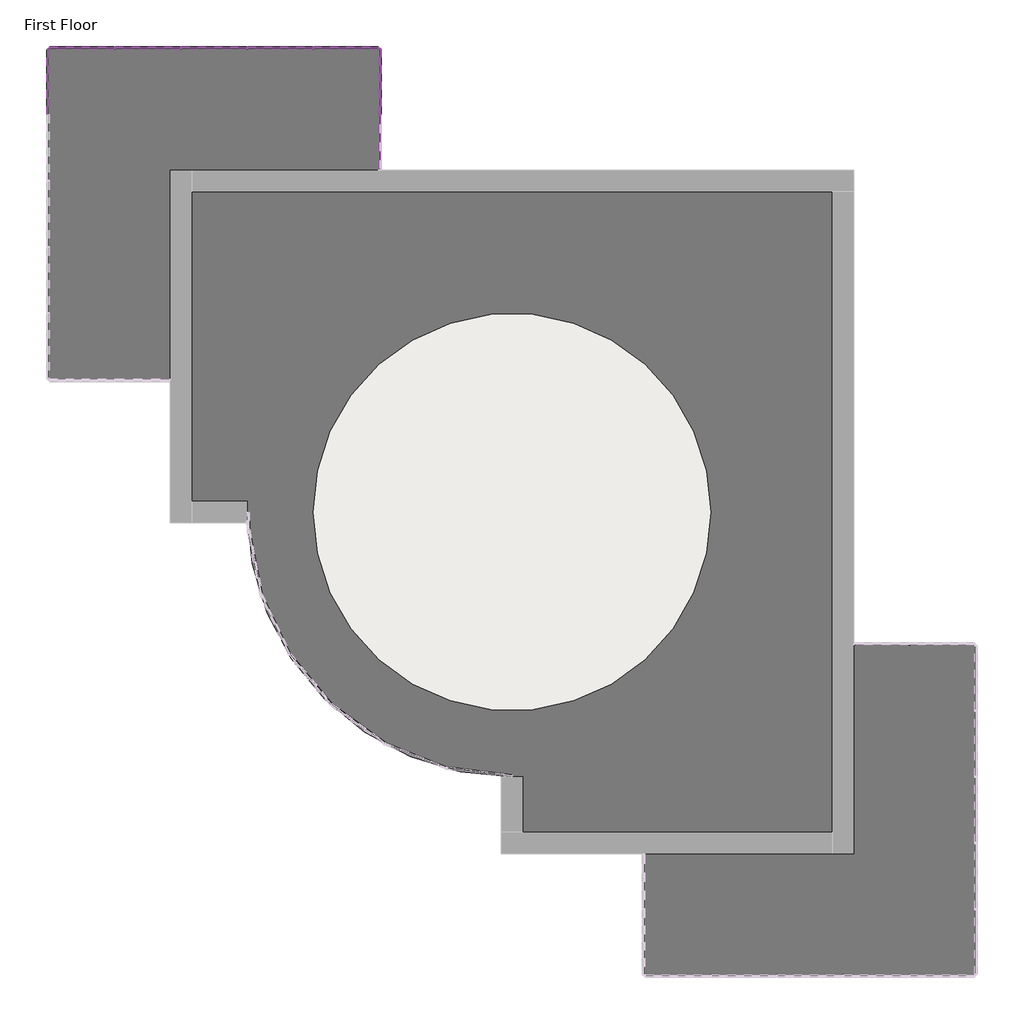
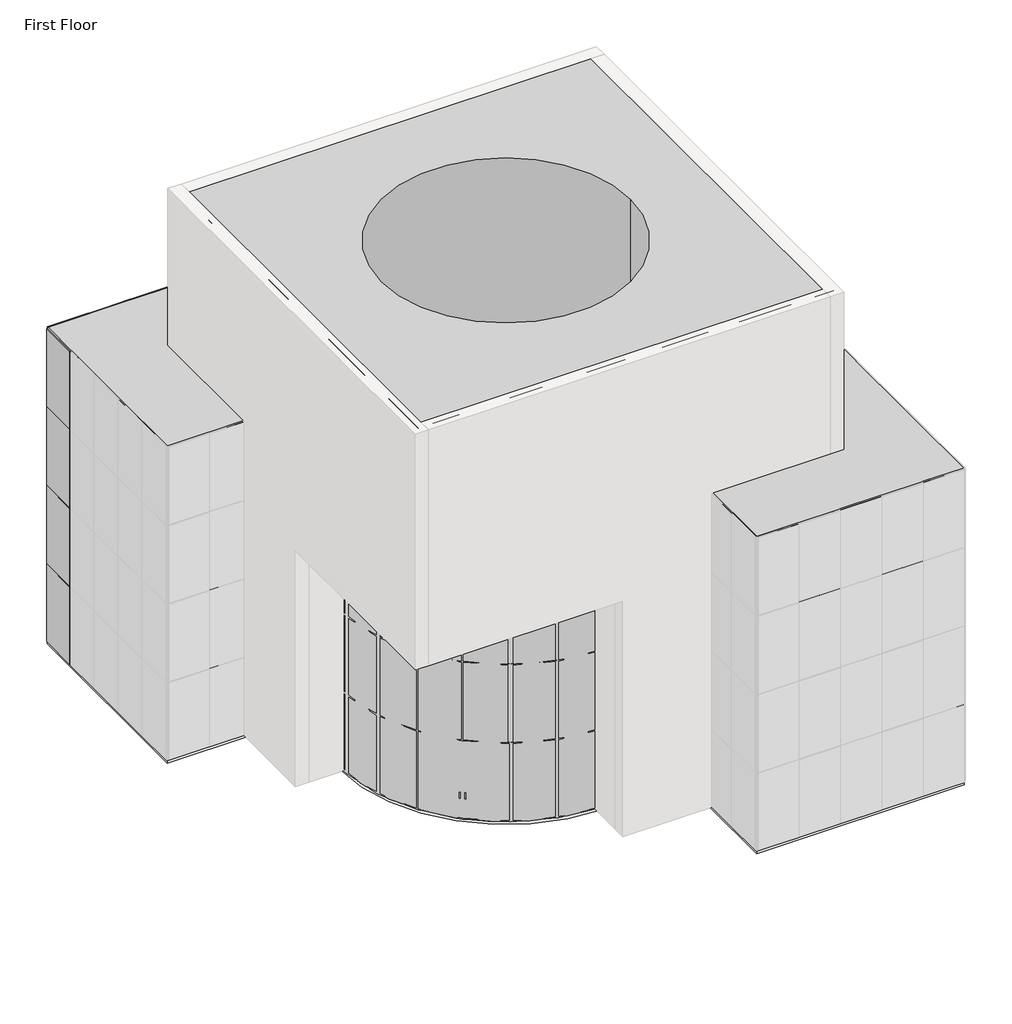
# One storey, part 4 of 4: 76 members, 28 plates, 4 slabs, 2 proxies.
"""IFC4 building model written with IfcOpenShell, lengths in millimetres."""

from ifc_helpers import new_model, si_unit, point, frame, frame_2d, origin, origin_with_axes, place, context, project, spatial, polyline, circle_curve, trimmed, segment, composite_curve, outline, extrude, transform, mapped, element, save
from ifc_brep_helpers import plane_surface, cylinder_surface, revolved_surface, advanced_brep
from components import member_5e617a80, member_74941792, member_cbdb9076, member_7e523723, member_9fd3d903, member_6604d1e0, member_e0356dda, member_be0b070d, system_panel_glazed_9b7d687a, system_panel_glazed_9a901b4a, system_panel_glazed_2d5e1d3d, system_panel_glazed_37964ea6

model = new_model("IFC4")

# Units and contexts
model_context = context("Model", 3, world=origin())
ifc_project = project(units=[si_unit("LENGTHUNIT", "METRE", prefix="MILLI")], contexts=[model_context])

# Site, building, storey
site = spatial("IfcSite", under=ifc_project)
building = spatial("IfcBuilding", under=site)
storey = spatial("IfcBuildingStorey", under=building, Name="First Floor", Elevation=0.0)

# Proxies
placement = place(None, origin())
element("IfcBuildingElementProxy", 1, Name="Central Hall : Central Hall", ObjectType="Central Hall : Central Hall", at=placement, inside=storey, context=model_context, shape_type="AdvancedBrep", body=[
    advanced_brep(
    [(5148.8943843, 6934.0139224, 18288.0), (-10091.1056157, 6934.0139224, 18288.0), (-10091.1056157, -8305.9860776, 18288.0), (5148.8943843, -8305.9860776, 18288.0), (2100.8943843, -685.9860776, 18288.0), (-7043.1056157, -685.9860776, 18288.0), (5148.8943843, 6934.0139224, 0.0), (5148.8943843, -8305.9860776, 0.0), (-2471.1056157, -8305.9860776, 0.0), (-2471.1056157, -6781.9860776, 0.0), (-8567.1056157, -685.9860776, 0.0), (-10091.1056157, -685.9860776, 0.0), (-10091.1056157, 6934.0139224, 0.0), (-7043.1056157, -685.9860776, 0.0), (2100.8943843, -685.9860776, 0.0), (-10091.1056157, -685.9860776, 9144.0), (-10091.1056157, -8305.9860776, 9144.0), (-2471.1056157, -8305.9860776, 9144.0), (-2471.1056157, -6781.9860776, 9144.0), (-8567.1056157, -685.9860776, 9144.0)],
    [
        (0, 1),
        (1, 2),
        (2, 3),
        (3, 0),
        (4, 5, circle_curve(frame((-2471.1056157, -685.9860776, 18288.0), z_axis=(0.0, 0.0, -1.0), x_axis=(1.0, 0.0, 0.0)), 4572.0)),
        (5, 4, circle_curve(frame((-2471.1056157, -685.9860776, 18288.0), z_axis=(0.0, 0.0, -1.0), x_axis=(1.0, 0.0, 0.0)), 4572.0)),
        (6, 7),
        (7, 8),
        (8, 9),
        (9, 10, circle_curve(frame((-2471.1056157, -685.9860776, 0.0), z_axis=(0.0, 0.0, -1.0), x_axis=(1.0, 0.0, 0.0)), 6096.0)),
        (10, 11),
        (11, 12),
        (12, 6),
        (13, 14, circle_curve(frame((-2471.1056157, -685.9860776, 0.0), z_axis=(0.0, 0.0, 1.0), x_axis=(1.0, 0.0, 0.0)), 4572.0)),
        (14, 13, circle_curve(frame((-2471.1056157, -685.9860776, 0.0), z_axis=(0.0, 0.0, 1.0), x_axis=(1.0, 0.0, 0.0)), 4572.0)),
        (0, 6),
        (12, 1),
        (11, 15),
        (15, 16),
        (16, 2),
        (16, 17),
        (17, 8),
        (7, 3),
        (4, 14),
        (13, 5),
        (18, 17),
        (15, 19),
        (19, 18, circle_curve(frame((-2471.1056157, -685.9860776, 9144.0), z_axis=(0.0, 0.0, 1.0), x_axis=(1.0, 0.0, 0.0)), 6096.0)),
        (19, 10),
        (9, 18),
    ],
    [
        plane_surface(frame((-10091.1056157, 6934.0139224, 18288.0), z_axis=(0.0, 0.0, 1.0), x_axis=(-1.0, 0.0, 0.0))),
        plane_surface(frame((-10091.1056157, 6934.0139224, 0.0), z_axis=(0.0, 0.0, -1.0), x_axis=(1.0, 0.0, 0.0))),
        plane_surface(frame((5148.8943843, 6934.0139224, 18288.0), z_axis=(0.0, 1.0, 0.0), x_axis=(0.0, 0.0, -1.0))),
        plane_surface(frame((-10091.1056157, 6934.0139224, 18288.0), z_axis=(-1.0, 0.0, 0.0), x_axis=(0.0, 0.0, -1.0))),
        plane_surface(frame((-10091.1056157, -8305.9860776, 18288.0), z_axis=(0.0, -1.0, 0.0), x_axis=(0.0, 0.0, -1.0))),
        plane_surface(frame((5148.8943843, -8305.9860776, 18288.0), z_axis=(1.0, 0.0, 0.0), x_axis=(0.0, 0.0, -1.0))),
        revolved_surface(polyline([(2100.8943843, -685.9860776, 18288.0), (2100.8943843, -685.9860776, 0.0)]), (-2471.1056157, -685.9860776, 0.0), (0.0, 0.0, 1.0)),
        plane_surface(frame((3624.8943843, -685.9860776, 9144.0), z_axis=(0.0, 0.0, -1.0), x_axis=(0.0, -1.0, 0.0))),
        cylinder_surface(frame((-2471.1056157, -685.9860776, 0.0), z_axis=(0.0, 0.0, -1.0), x_axis=(1.0, 0.0, 0.0)), 6096.0),
        plane_surface(frame((-8567.1056157, -685.9860776, 9144.0), z_axis=(0.0, -1.0, 0.0), x_axis=(0.0, 0.0, -1.0))),
        plane_surface(frame((-2471.1056157, -8305.9860776, 9144.0), z_axis=(-1.0, 0.0, 0.0), x_axis=(0.0, 0.0, -1.0))),
    ],
    [
        (0, [[1, 2, 3, 4], [5, 6]]),
        (1, [[7, 8, 9, 10, 11, 12, 13], [14, 15]]),
        (2, [[-1, 16, -13, 17]]),
        (3, [[-2, -17, -12, 18, 19, 20]]),
        (4, [[-3, -20, 21, 22, -8, 23]]),
        (5, [[-4, -23, -7, -16]]),
        (6, [[24, -14, 25, -5]]),
        (6, [[-24, -6, -25, -15]]),
        (7, [[26, -21, -19, 27, 28]]),
        (8, [[-28, 29, -10, 30]]),
        (9, [[-27, -18, -11, -29]]),
        (10, [[-26, -30, -9, -22]]),
    ],
),
])
element("IfcBuildingElementProxy", 2, Name="Wings : Wings", ObjectType="Wings : Wings", at=placement, inside=storey, context=model_context, shape_type="SweptSolid", body=[
    extrude(outline(polyline([(8196.8943843, -3733.9860776), (8196.8943843, -11353.9860776), (576.8943843, -11353.9860776), (576.8943843, -8305.9860776), (5148.8943843, -8305.9860776), (5148.8943843, -3733.9860776), (8196.8943843, -3733.9860776)])), origin_with_axes(), (0.0, 0.0, 1.0), 12192.0),
    extrude(outline(polyline([(-5519.1056157, 9982.0139224), (-5519.1056157, 6934.0139224), (-10091.1056157, 6934.0139224), (-10091.1056157, 2362.0139224), (-13139.1056157, 2362.0139224), (-13139.1056157, 9982.0139224), (-5519.1056157, 9982.0139224)])), origin_with_axes(), (0.0, 0.0, 1.0), 12192.0),
])

# Members
member_shape = member_5e617a80(model_context)
element("IfcMember", 3, ObjectType="Rectangular Mullion : 1\" Square", at=placement, inside=storey, context=model_context, shape_type="MappedRepresentation", body=[
    mapped(member_shape, transform((-13139.1056157, 8470.7139224, 9144.0), x_axis=(0.0, 0.0, 1.0), y_axis=(-1.0, 0.0, 0.0), z_axis=(0.0, -1.0, 0.0))),
])
element("IfcMember", 4, ObjectType="Rectangular Mullion : 1\" Square", at=placement, inside=storey, context=model_context, shape_type="MappedRepresentation", body=[
    mapped(member_shape, transform((-7030.4056157, 9982.0139224, 3048.0), x_axis=(0.0, 0.0, 1.0), y_axis=(0.0, 1.0, 0.0), z_axis=(-1.0, 0.0, 0.0))),
])
element("IfcMember", 5, ObjectType="Rectangular Mullion : 1\" Square", at=placement, inside=storey, context=model_context, shape_type="MappedRepresentation", body=[
    mapped(member_shape, transform((-13113.7056157, 9982.0139224, 3048.0), x_axis=(0.0, 0.0, 1.0), y_axis=(0.0, 1.0, 0.0), z_axis=(-1.0, 0.0, 0.0))),
])
element("IfcMember", 6, ObjectType="Rectangular Mullion : 1\" Square", at=placement, inside=storey, context=model_context, shape_type="MappedRepresentation", body=[
    mapped(member_shape, transform((-7030.4056157, 9982.0139224, 6096.0), x_axis=(0.0, 0.0, 1.0), y_axis=(0.0, 1.0, 0.0), z_axis=(-1.0, 0.0, 0.0))),
])
element("IfcMember", 7, ObjectType="Rectangular Mullion : 1\" Square", at=placement, inside=storey, context=model_context, shape_type="MappedRepresentation", body=[
    mapped(member_shape, transform((-13113.7056157, 9982.0139224, 6096.0), x_axis=(0.0, 0.0, 1.0), y_axis=(0.0, 1.0, 0.0), z_axis=(-1.0, 0.0, 0.0))),
])
element("IfcMember", 8, ObjectType="Rectangular Mullion : 1\" Square", at=placement, inside=storey, context=model_context, shape_type="MappedRepresentation", body=[
    mapped(member_shape, transform((-7030.4056157, 9982.0139224, 9144.0), x_axis=(0.0, 0.0, 1.0), y_axis=(0.0, 1.0, 0.0), z_axis=(-1.0, 0.0, 0.0))),
])
element("IfcMember", 9, ObjectType="Rectangular Mullion : 1\" Square", at=placement, inside=storey, context=model_context, shape_type="MappedRepresentation", body=[
    mapped(member_shape, transform((-13113.7056157, 9982.0139224, 9144.0), x_axis=(0.0, 0.0, 1.0), y_axis=(0.0, 1.0, 0.0), z_axis=(-1.0, 0.0, 0.0))),
])
member_2_shape = member_74941792(model_context)
element("IfcMember", 10, ObjectType="Rectangular Mullion : 1\" Square", at=placement, inside=storey, context=model_context, shape_type="MappedRepresentation", body=[
    mapped(member_2_shape, transform((-13113.7056157, 9982.0139224, 12192.0), x_axis=(0.0, 0.0, 1.0), y_axis=(0.0, 1.0, 0.0), z_axis=(-1.0, 0.0, 0.0))),
])
element("IfcMember", 11, ObjectType="Rectangular Mullion : 1\" Square", at=placement, inside=storey, context=model_context, shape_type="MappedRepresentation", body=[
    mapped(member_2_shape, transform((-7030.4056157, 9982.0139224, 12192.0), x_axis=(0.0, 0.0, 1.0), y_axis=(0.0, 1.0, 0.0), z_axis=(-1.0, 0.0, 0.0))),
])
member_3_shape = member_cbdb9076(model_context)
element("IfcMember", 12, ObjectType="Rectangular Mullion : 1\" Square", at=placement, inside=storey, context=model_context, shape_type="MappedRepresentation", body=[
    mapped(member_3_shape, transform((-8567.1056157, 9982.0139224, 6096.0), x_axis=(-1.0, 0.0, 0.0), y_axis=(0.0, 1.0, 0.0), z_axis=(0.0, 0.0, -1.0))),
])
element("IfcMember", 13, ObjectType="Rectangular Mullion : 1\" Square", at=placement, inside=storey, context=model_context, shape_type="MappedRepresentation", body=[
    mapped(member_3_shape, transform((-10091.1056157, 9982.0139224, 3048.0), x_axis=(-1.0, 0.0, 0.0), y_axis=(0.0, 1.0, 0.0), z_axis=(0.0, 0.0, -1.0))),
])
element("IfcMember", 14, ObjectType="Rectangular Mullion : 1\" Square", at=placement, inside=storey, context=model_context, shape_type="MappedRepresentation", body=[
    mapped(member_3_shape, transform((-10091.1056157, 9982.0139224, 6096.0), x_axis=(-1.0, 0.0, 0.0), y_axis=(0.0, 1.0, 0.0), z_axis=(0.0, 0.0, -1.0))),
])
element("IfcMember", 15, ObjectType="Rectangular Mullion : 1\" Square", at=placement, inside=storey, context=model_context, shape_type="MappedRepresentation", body=[
    mapped(member_3_shape, transform((-11615.1056157, 9982.0139224, 3048.0), x_axis=(-1.0, 0.0, 0.0), y_axis=(0.0, 1.0, 0.0), z_axis=(0.0, 0.0, -1.0))),
])
element("IfcMember", 16, ObjectType="Rectangular Mullion : 1\" Square", at=placement, inside=storey, context=model_context, shape_type="MappedRepresentation", body=[
    mapped(member_3_shape, transform((-11615.1056157, 9982.0139224, 6096.0), x_axis=(-1.0, 0.0, 0.0), y_axis=(0.0, 1.0, 0.0), z_axis=(0.0, 0.0, -1.0))),
])
element("IfcMember", 17, ObjectType="Rectangular Mullion : 1\" Square", at=placement, inside=storey, context=model_context, shape_type="MappedRepresentation", body=[
    mapped(member_3_shape, transform((-7043.1056157, 9982.0139224, 3048.0), x_axis=(-1.0, 0.0, 0.0), y_axis=(0.0, 1.0, 0.0), z_axis=(0.0, 0.0, -1.0))),
])
element("IfcMember", 18, ObjectType="Rectangular Mullion : 1\" Square", at=placement, inside=storey, context=model_context, shape_type="MappedRepresentation", body=[
    mapped(member_3_shape, transform((-7043.1056157, 9982.0139224, 6096.0), x_axis=(-1.0, 0.0, 0.0), y_axis=(0.0, 1.0, 0.0), z_axis=(0.0, 0.0, -1.0))),
])
element("IfcMember", 19, ObjectType="Rectangular Mullion : 1\" Square", at=placement, inside=storey, context=model_context, shape_type="MappedRepresentation", body=[
    mapped(member_3_shape, transform((-8567.1056157, 9982.0139224, 3048.0), x_axis=(-1.0, 0.0, 0.0), y_axis=(0.0, 1.0, 0.0), z_axis=(0.0, 0.0, -1.0))),
])
element("IfcMember", 20, ObjectType="Rectangular Mullion : 1\" Square", at=placement, inside=storey, context=model_context, shape_type="MappedRepresentation", body=[
    mapped(member_3_shape, transform((-5519.1056157, 9978.8389224, 3048.0), x_axis=(0.0, 1.0, 0.0), y_axis=(1.0, 0.0, 0.0), z_axis=(0.0, 0.0, -1.0))),
])
element("IfcMember", 21, ObjectType="Rectangular Mullion : 1\" Square", at=placement, inside=storey, context=model_context, shape_type="MappedRepresentation", body=[
    mapped(member_3_shape, transform((-5519.1056157, 9978.8389224, 6096.0), x_axis=(0.0, 1.0, 0.0), y_axis=(1.0, 0.0, 0.0), z_axis=(0.0, 0.0, -1.0))),
])
element("IfcMember", 22, ObjectType="Rectangular Mullion : 1\" Square", at=placement, inside=storey, context=model_context, shape_type="MappedRepresentation", body=[
    mapped(member_3_shape, transform((-5519.1056157, 8454.8389224, 3048.0), x_axis=(0.0, 1.0, 0.0), y_axis=(1.0, 0.0, 0.0), z_axis=(0.0, 0.0, -1.0))),
])
element("IfcMember", 23, ObjectType="Rectangular Mullion : 1\" Square", at=placement, inside=storey, context=model_context, shape_type="MappedRepresentation", body=[
    mapped(member_3_shape, transform((-5519.1056157, 8454.8389224, 6096.0), x_axis=(0.0, 1.0, 0.0), y_axis=(1.0, 0.0, 0.0), z_axis=(0.0, 0.0, -1.0))),
])
element("IfcMember", 24, ObjectType="Rectangular Mullion : 1\" Square", at=placement, inside=storey, context=model_context, shape_type="MappedRepresentation", body=[
    mapped(member_3_shape, transform((-8567.1056157, 9982.0139224, 9144.0), x_axis=(-1.0, 0.0, 0.0), y_axis=(0.0, 1.0, 0.0), z_axis=(0.0, 0.0, -1.0))),
])
element("IfcMember", 25, ObjectType="Rectangular Mullion : 1\" Square", at=placement, inside=storey, context=model_context, shape_type="MappedRepresentation", body=[
    mapped(member_3_shape, transform((-10091.1056157, 9982.0139224, 9144.0), x_axis=(-1.0, 0.0, 0.0), y_axis=(0.0, 1.0, 0.0), z_axis=(0.0, 0.0, -1.0))),
])
element("IfcMember", 26, ObjectType="Rectangular Mullion : 1\" Square", at=placement, inside=storey, context=model_context, shape_type="MappedRepresentation", body=[
    mapped(member_3_shape, transform((-11615.1056157, 9982.0139224, 9144.0), x_axis=(-1.0, 0.0, 0.0), y_axis=(0.0, 1.0, 0.0), z_axis=(0.0, 0.0, -1.0))),
])
element("IfcMember", 27, ObjectType="Rectangular Mullion : 1\" Square", at=placement, inside=storey, context=model_context, shape_type="MappedRepresentation", body=[
    mapped(member_3_shape, transform((-7043.1056157, 9982.0139224, 9144.0), x_axis=(-1.0, 0.0, 0.0), y_axis=(0.0, 1.0, 0.0), z_axis=(0.0, 0.0, -1.0))),
])
element("IfcMember", 28, ObjectType="Rectangular Mullion : 1\" Square", at=placement, inside=storey, context=model_context, shape_type="MappedRepresentation", body=[
    mapped(member_3_shape, transform((-5519.1056157, 9978.8389224, 9144.0), x_axis=(0.0, 1.0, 0.0), y_axis=(1.0, 0.0, 0.0), z_axis=(0.0, 0.0, -1.0))),
])
element("IfcMember", 29, ObjectType="Rectangular Mullion : 1\" Square", at=placement, inside=storey, context=model_context, shape_type="MappedRepresentation", body=[
    mapped(member_3_shape, transform((-5519.1056157, 8454.8389224, 9144.0), x_axis=(0.0, 1.0, 0.0), y_axis=(1.0, 0.0, 0.0), z_axis=(0.0, 0.0, -1.0))),
])
element("IfcMember", 30, ObjectType="Rectangular Mullion : 1\" Square", at=placement, inside=storey, context=model_context, shape_type="MappedRepresentation", body=[
    mapped(member_3_shape, transform((-7043.1056157, 9982.0139224, 0.0), x_axis=(-1.0, 0.0, 0.0), y_axis=(0.0, 1.0, 0.0), z_axis=(0.0, 0.0, -1.0))),
])
element("IfcMember", 31, ObjectType="Rectangular Mullion : 1\" Square", at=placement, inside=storey, context=model_context, shape_type="MappedRepresentation", body=[
    mapped(member_3_shape, transform((-8567.1056157, 9982.0139224, 0.0), x_axis=(-1.0, 0.0, 0.0), y_axis=(0.0, 1.0, 0.0), z_axis=(0.0, 0.0, -1.0))),
])
element("IfcMember", 32, ObjectType="Rectangular Mullion : 1\" Square", at=placement, inside=storey, context=model_context, shape_type="MappedRepresentation", body=[
    mapped(member_3_shape, transform((-10091.1056157, 9982.0139224, 0.0), x_axis=(-1.0, 0.0, 0.0), y_axis=(0.0, 1.0, 0.0), z_axis=(0.0, 0.0, -1.0))),
])
element("IfcMember", 33, ObjectType="Rectangular Mullion : 1\" Square", at=placement, inside=storey, context=model_context, shape_type="MappedRepresentation", body=[
    mapped(member_3_shape, transform((-11615.1056157, 9982.0139224, 0.0), x_axis=(-1.0, 0.0, 0.0), y_axis=(0.0, 1.0, 0.0), z_axis=(0.0, 0.0, -1.0))),
])
element("IfcMember", 34, ObjectType="Rectangular Mullion : 1\" Square", at=placement, inside=storey, context=model_context, shape_type="MappedRepresentation", body=[
    mapped(member_3_shape, transform((-5519.1056157, 9978.8389224, 0.0), x_axis=(0.0, 1.0, 0.0), y_axis=(1.0, 0.0, 0.0), z_axis=(0.0, 0.0, -1.0))),
])
element("IfcMember", 35, ObjectType="Rectangular Mullion : 1\" Square", at=placement, inside=storey, context=model_context, shape_type="MappedRepresentation", body=[
    mapped(member_3_shape, transform((-5519.1056157, 8454.8389224, 0.0), x_axis=(0.0, 1.0, 0.0), y_axis=(1.0, 0.0, 0.0), z_axis=(0.0, 0.0, -1.0))),
])
element("IfcMember", 36, ObjectType="Rectangular Mullion : 1\" Square", at=placement, inside=storey, context=model_context, shape_type="MappedRepresentation", body=[
    mapped(member_2_shape, transform((-13139.1056157, 9956.6139224, 0.0), x_axis=(0.0, 0.0, -1.0), y_axis=(-1.0, 0.0, 0.0), z_axis=(0.0, 1.0, 0.0))),
])
element("IfcMember", 37, ObjectType="Rectangular Mullion : 1\" Square", at=placement, inside=storey, context=model_context, shape_type="MappedRepresentation", body=[
    mapped(member_2_shape, transform((-5544.5056157, 9982.0139224, 0.0), x_axis=(0.0, 0.0, -1.0), y_axis=(0.0, 1.0, 0.0), z_axis=(1.0, 0.0, 0.0))),
])
element("IfcMember", 38, ObjectType="Rectangular Mullion : 1\" Square", at=placement, inside=storey, context=model_context, shape_type="MappedRepresentation", body=[
    mapped(member_2_shape, transform((-11627.8056157, 9982.0139224, 0.0), x_axis=(0.0, 0.0, -1.0), y_axis=(0.0, 1.0, 0.0), z_axis=(1.0, 0.0, 0.0))),
])
member_4_shape = member_7e523723(model_context)
element("IfcMember", 39, ObjectType="Rectangular Mullion : 1\" Square", at=placement, inside=storey, context=model_context, shape_type="MappedRepresentation", body=[
    mapped(member_4_shape, transform((-13139.1056157, 9982.0139224, 12192.0), x_axis=(0.0, 1.0, 0.0), y_axis=(-1.0, 0.0, 0.0), z_axis=(0.0, 0.0, 1.0))),
])
element("IfcMember", 40, ObjectType="Rectangular Mullion : 1\" Square", at=placement, inside=storey, context=model_context, shape_type="MappedRepresentation", body=[
    mapped(member_4_shape, transform((-5519.1056157, 9982.0139224, 12192.0), x_axis=(1.0, 0.0, 0.0), y_axis=(0.0, 1.0, 0.0), z_axis=(0.0, 0.0, 1.0))),
])
element("IfcMember", 41, ObjectType="Rectangular Mullion : 1\" Square", at=placement, inside=storey, context=model_context, shape_type="MappedRepresentation", body=[
    mapped(member_4_shape, transform((-13139.1056157, 9982.0139224, 3048.0), x_axis=(-1.0, 0.0, 0.0), y_axis=(0.0, 1.0, 0.0), z_axis=(0.0, 0.0, -1.0))),
])
element("IfcMember", 42, ObjectType="Rectangular Mullion : 1\" Square", at=placement, inside=storey, context=model_context, shape_type="MappedRepresentation", body=[
    mapped(member_4_shape, transform((-13139.1056157, 9982.0139224, 6096.0), x_axis=(-1.0, 0.0, 0.0), y_axis=(0.0, 1.0, 0.0), z_axis=(0.0, 0.0, -1.0))),
])
element("IfcMember", 43, ObjectType="Rectangular Mullion : 1\" Square", at=placement, inside=storey, context=model_context, shape_type="MappedRepresentation", body=[
    mapped(member_4_shape, transform((-13139.1056157, 9982.0139224, 9144.0), x_axis=(-1.0, 0.0, 0.0), y_axis=(0.0, 1.0, 0.0), z_axis=(0.0, 0.0, -1.0))),
])
element("IfcMember", 44, ObjectType="Rectangular Mullion : 1\" Square", at=placement, inside=storey, context=model_context, shape_type="MappedRepresentation", body=[
    mapped(member_4_shape, transform((-13139.1056157, 9982.0139224, 3048.0), x_axis=(0.0, 1.0, 0.0), y_axis=(-1.0, 0.0, 0.0), z_axis=(0.0, 0.0, 1.0))),
])
element("IfcMember", 45, ObjectType="Rectangular Mullion : 1\" Square", at=placement, inside=storey, context=model_context, shape_type="MappedRepresentation", body=[
    mapped(member_4_shape, transform((-5519.1056157, 9982.0139224, 3048.0), x_axis=(1.0, 0.0, 0.0), y_axis=(0.0, 1.0, 0.0), z_axis=(0.0, 0.0, 1.0))),
])
element("IfcMember", 46, ObjectType="Rectangular Mullion : 1\" Square", at=placement, inside=storey, context=model_context, shape_type="MappedRepresentation", body=[
    mapped(member_4_shape, transform((-13139.1056157, 9982.0139224, 6096.0), x_axis=(0.0, 1.0, 0.0), y_axis=(-1.0, 0.0, 0.0), z_axis=(0.0, 0.0, 1.0))),
])
element("IfcMember", 47, ObjectType="Rectangular Mullion : 1\" Square", at=placement, inside=storey, context=model_context, shape_type="MappedRepresentation", body=[
    mapped(member_4_shape, transform((-13139.1056157, 9982.0139224, 9144.0), x_axis=(0.0, 1.0, 0.0), y_axis=(-1.0, 0.0, 0.0), z_axis=(0.0, 0.0, 1.0))),
])
element("IfcMember", 48, ObjectType="Rectangular Mullion : 1\" Square", at=placement, inside=storey, context=model_context, shape_type="MappedRepresentation", body=[
    mapped(member_4_shape, transform((-5519.1056157, 9982.0139224, 6096.0), x_axis=(1.0, 0.0, 0.0), y_axis=(0.0, 1.0, 0.0), z_axis=(0.0, 0.0, 1.0))),
])
element("IfcMember", 49, ObjectType="Rectangular Mullion : 1\" Square", at=placement, inside=storey, context=model_context, shape_type="MappedRepresentation", body=[
    mapped(member_4_shape, transform((-5519.1056157, 9982.0139224, 9144.0), x_axis=(1.0, 0.0, 0.0), y_axis=(0.0, 1.0, 0.0), z_axis=(0.0, 0.0, 1.0))),
])
element("IfcMember", 50, ObjectType="Rectangular Mullion : 1\" Square", at=placement, inside=storey, context=model_context, shape_type="MappedRepresentation", body=[
    mapped(member_4_shape, transform((-13139.1056157, 9982.0139224, 0.0), x_axis=(-1.0, 0.0, 0.0), y_axis=(0.0, 1.0, 0.0), z_axis=(0.0, 0.0, -1.0))),
])
member_5_shape = member_9fd3d903(model_context)
element("IfcMember", 51, ObjectType="Rectangular Mullion : 1\" Square", at=placement, inside=storey, context=model_context, shape_type="MappedRepresentation", body=[
    mapped(member_5_shape, transform((-8554.4056157, 9982.0139224, 3048.0), x_axis=(0.0, 0.0, 1.0), y_axis=(0.0, 1.0, 0.0), z_axis=(-1.0, 0.0, 0.0))),
])
element("IfcMember", 52, ObjectType="Rectangular Mullion : 1\" Square", at=placement, inside=storey, context=model_context, shape_type="MappedRepresentation", body=[
    mapped(member_5_shape, transform((-10078.4056157, 9982.0139224, 3048.0), x_axis=(0.0, 0.0, 1.0), y_axis=(0.0, 1.0, 0.0), z_axis=(-1.0, 0.0, 0.0))),
])
element("IfcMember", 53, ObjectType="Rectangular Mullion : 1\" Square", at=placement, inside=storey, context=model_context, shape_type="MappedRepresentation", body=[
    mapped(member_5_shape, transform((-11602.4056157, 9982.0139224, 3048.0), x_axis=(0.0, 0.0, 1.0), y_axis=(0.0, 1.0, 0.0), z_axis=(-1.0, 0.0, 0.0))),
])
element("IfcMember", 54, ObjectType="Rectangular Mullion : 1\" Square", at=placement, inside=storey, context=model_context, shape_type="MappedRepresentation", body=[
    mapped(member_5_shape, transform((-8554.4056157, 9982.0139224, 6096.0), x_axis=(0.0, 0.0, 1.0), y_axis=(0.0, 1.0, 0.0), z_axis=(-1.0, 0.0, 0.0))),
])
element("IfcMember", 55, ObjectType="Rectangular Mullion : 1\" Square", at=placement, inside=storey, context=model_context, shape_type="MappedRepresentation", body=[
    mapped(member_5_shape, transform((-10078.4056157, 9982.0139224, 6096.0), x_axis=(0.0, 0.0, 1.0), y_axis=(0.0, 1.0, 0.0), z_axis=(-1.0, 0.0, 0.0))),
])
element("IfcMember", 56, ObjectType="Rectangular Mullion : 1\" Square", at=placement, inside=storey, context=model_context, shape_type="MappedRepresentation", body=[
    mapped(member_5_shape, transform((-11602.4056157, 9982.0139224, 6096.0), x_axis=(0.0, 0.0, 1.0), y_axis=(0.0, 1.0, 0.0), z_axis=(-1.0, 0.0, 0.0))),
])
element("IfcMember", 57, ObjectType="Rectangular Mullion : 1\" Square", at=placement, inside=storey, context=model_context, shape_type="MappedRepresentation", body=[
    mapped(member_5_shape, transform((-8554.4056157, 9982.0139224, 9144.0), x_axis=(0.0, 0.0, 1.0), y_axis=(0.0, 1.0, 0.0), z_axis=(-1.0, 0.0, 0.0))),
])
element("IfcMember", 58, ObjectType="Rectangular Mullion : 1\" Square", at=placement, inside=storey, context=model_context, shape_type="MappedRepresentation", body=[
    mapped(member_5_shape, transform((-10078.4056157, 9982.0139224, 9144.0), x_axis=(0.0, 0.0, 1.0), y_axis=(0.0, 1.0, 0.0), z_axis=(-1.0, 0.0, 0.0))),
])
element("IfcMember", 59, ObjectType="Rectangular Mullion : 1\" Square", at=placement, inside=storey, context=model_context, shape_type="MappedRepresentation", body=[
    mapped(member_5_shape, transform((-11602.4056157, 9982.0139224, 9144.0), x_axis=(0.0, 0.0, 1.0), y_axis=(0.0, 1.0, 0.0), z_axis=(-1.0, 0.0, 0.0))),
])
element("IfcMember", 60, ObjectType="Rectangular Mullion : 1\" Square", at=placement, inside=storey, context=model_context, shape_type="MappedRepresentation", body=[
    mapped(member_5_shape, transform((-5519.1056157, 9966.1389224, 3048.0), x_axis=(0.0, 0.0, 1.0), y_axis=(1.0, 0.0, 0.0), z_axis=(0.0, 1.0, 0.0))),
])
element("IfcMember", 61, ObjectType="Rectangular Mullion : 1\" Square", at=placement, inside=storey, context=model_context, shape_type="MappedRepresentation", body=[
    mapped(member_5_shape, transform((-5519.1056157, 9966.1389224, 6096.0), x_axis=(0.0, 0.0, 1.0), y_axis=(1.0, 0.0, 0.0), z_axis=(0.0, 1.0, 0.0))),
])
element("IfcMember", 62, ObjectType="Rectangular Mullion : 1\" Square", at=placement, inside=storey, context=model_context, shape_type="MappedRepresentation", body=[
    mapped(member_5_shape, transform((-5519.1056157, 9966.1389224, 9144.0), x_axis=(0.0, 0.0, 1.0), y_axis=(1.0, 0.0, 0.0), z_axis=(0.0, 1.0, 0.0))),
])
member_6_shape = member_6604d1e0(model_context)
element("IfcMember", 63, ObjectType="Rectangular Mullion : 1\" Square", at=placement, inside=storey, context=model_context, shape_type="MappedRepresentation", body=[
    mapped(member_6_shape, transform((-8554.4056157, 9982.0139224, 12192.0), x_axis=(0.0, 0.0, 1.0), y_axis=(0.0, 1.0, 0.0), z_axis=(-1.0, 0.0, 0.0))),
])
element("IfcMember", 64, ObjectType="Rectangular Mullion : 1\" Square", at=placement, inside=storey, context=model_context, shape_type="MappedRepresentation", body=[
    mapped(member_6_shape, transform((-10078.4056157, 9982.0139224, 12192.0), x_axis=(0.0, 0.0, 1.0), y_axis=(0.0, 1.0, 0.0), z_axis=(-1.0, 0.0, 0.0))),
])
element("IfcMember", 65, ObjectType="Rectangular Mullion : 1\" Square", at=placement, inside=storey, context=model_context, shape_type="MappedRepresentation", body=[
    mapped(member_6_shape, transform((-11602.4056157, 9982.0139224, 12192.0), x_axis=(0.0, 0.0, 1.0), y_axis=(0.0, 1.0, 0.0), z_axis=(-1.0, 0.0, 0.0))),
])
element("IfcMember", 66, ObjectType="Rectangular Mullion : 1\" Square", at=placement, inside=storey, context=model_context, shape_type="MappedRepresentation", body=[
    mapped(member_6_shape, transform((-5519.1056157, 9966.1389224, 12192.0), x_axis=(0.0, 0.0, 1.0), y_axis=(1.0, 0.0, 0.0), z_axis=(0.0, 1.0, 0.0))),
])
element("IfcMember", 67, ObjectType="Rectangular Mullion : 1\" Square", at=placement, inside=storey, context=model_context, shape_type="MappedRepresentation", body=[
    mapped(member_6_shape, transform((-7055.8056157, 9982.0139224, 0.0), x_axis=(0.0, 0.0, -1.0), y_axis=(0.0, 1.0, 0.0), z_axis=(1.0, 0.0, 0.0))),
])
element("IfcMember", 68, ObjectType="Rectangular Mullion : 1\" Square", at=placement, inside=storey, context=model_context, shape_type="MappedRepresentation", body=[
    mapped(member_6_shape, transform((-8579.8056157, 9982.0139224, 0.0), x_axis=(0.0, 0.0, -1.0), y_axis=(0.0, 1.0, 0.0), z_axis=(1.0, 0.0, 0.0))),
])
element("IfcMember", 69, ObjectType="Rectangular Mullion : 1\" Square", at=placement, inside=storey, context=model_context, shape_type="MappedRepresentation", body=[
    mapped(member_6_shape, transform((-10103.8056157, 9982.0139224, 0.0), x_axis=(0.0, 0.0, -1.0), y_axis=(0.0, 1.0, 0.0), z_axis=(1.0, 0.0, 0.0))),
])
element("IfcMember", 70, ObjectType="Rectangular Mullion : 1\" Square", at=placement, inside=storey, context=model_context, shape_type="MappedRepresentation", body=[
    mapped(member_6_shape, transform((-5519.1056157, 8467.5389224, 0.0), x_axis=(0.0, 0.0, -1.0), y_axis=(1.0, 0.0, 0.0), z_axis=(0.0, -1.0, 0.0))),
])
member_7_shape = member_e0356dda(model_context)
element("IfcMember", 71, ObjectType="Rectangular Mullion : 1\" Square", at=placement, inside=storey, context=model_context, shape_type="MappedRepresentation", body=[
    mapped(member_7_shape, transform((-5519.1056157, 8442.1389224, 3048.0), x_axis=(0.0, 0.0, 1.0), y_axis=(1.0, 0.0, 0.0), z_axis=(0.0, 1.0, 0.0))),
])
element("IfcMember", 72, ObjectType="Rectangular Mullion : 1\" Square", at=placement, inside=storey, context=model_context, shape_type="MappedRepresentation", body=[
    mapped(member_7_shape, transform((-5519.1056157, 8442.1389224, 6096.0), x_axis=(0.0, 0.0, 1.0), y_axis=(1.0, 0.0, 0.0), z_axis=(0.0, 1.0, 0.0))),
])
element("IfcMember", 73, ObjectType="Rectangular Mullion : 1\" Square", at=placement, inside=storey, context=model_context, shape_type="MappedRepresentation", body=[
    mapped(member_7_shape, transform((-5519.1056157, 8442.1389224, 9144.0), x_axis=(0.0, 0.0, 1.0), y_axis=(1.0, 0.0, 0.0), z_axis=(0.0, 1.0, 0.0))),
])
member_8_shape = member_be0b070d(model_context)
element("IfcMember", 74, ObjectType="Rectangular Mullion : 1\" Square", at=placement, inside=storey, context=model_context, shape_type="MappedRepresentation", body=[
    mapped(member_8_shape, transform((-5519.1056157, 8442.1389224, 12192.0), x_axis=(0.0, 0.0, 1.0), y_axis=(1.0, 0.0, 0.0), z_axis=(0.0, 1.0, 0.0))),
])
element("IfcMember", 75, ObjectType="Rectangular Mullion : 1\" Square", at=placement, inside=storey, context=model_context, shape_type="MappedRepresentation", body=[
    mapped(member_4_shape, transform((-5519.1056157, 9982.0139224, 3048.0), x_axis=(0.0, 1.0, 0.0), y_axis=(1.0, 0.0, 0.0), z_axis=(0.0, 0.0, -1.0))),
])
element("IfcMember", 76, ObjectType="Rectangular Mullion : 1\" Square", at=placement, inside=storey, context=model_context, shape_type="MappedRepresentation", body=[
    mapped(member_4_shape, transform((-5519.1056157, 9982.0139224, 6096.0), x_axis=(0.0, 1.0, 0.0), y_axis=(1.0, 0.0, 0.0), z_axis=(0.0, 0.0, -1.0))),
])
element("IfcMember", 77, ObjectType="Rectangular Mullion : 1\" Square", at=placement, inside=storey, context=model_context, shape_type="MappedRepresentation", body=[
    mapped(member_4_shape, transform((-5519.1056157, 9982.0139224, 9144.0), x_axis=(0.0, 1.0, 0.0), y_axis=(1.0, 0.0, 0.0), z_axis=(0.0, 0.0, -1.0))),
])
element("IfcMember", 78, ObjectType="Rectangular Mullion : 1\" Square", at=placement, inside=storey, context=model_context, shape_type="MappedRepresentation", body=[
    mapped(member_4_shape, transform((-5519.1056157, 9982.0139224, 0.0), x_axis=(0.0, 1.0, 0.0), y_axis=(1.0, 0.0, 0.0), z_axis=(0.0, 0.0, -1.0))),
])

# Plates
system_panel_glazed_shape = system_panel_glazed_9b7d687a(model_context)
element("IfcPlate", 79, ObjectType="System Panel : Glazed", at=placement, inside=storey, context=model_context, shape_type="MappedRepresentation", body=[
    mapped(system_panel_glazed_shape, transform((-13139.1056157, 9213.6639224, 25.4), x_axis=(0.0, -1.0, 0.0), y_axis=(1.0, 0.0, 0.0), z_axis=(0.0, 0.0, 1.0))),
])
element("IfcPlate", 80, ObjectType="System Panel : Glazed", at=placement, inside=storey, context=model_context, shape_type="MappedRepresentation", body=[
    mapped(system_panel_glazed_shape, transform((-13139.1056157, 9213.6639224, 9156.7), x_axis=(0.0, -1.0, 0.0), y_axis=(1.0, 0.0, 0.0), z_axis=(0.0, 0.0, 1.0))),
])
element("IfcPlate", 81, ObjectType="System Panel : Glazed", at=placement, inside=storey, context=model_context, shape_type="MappedRepresentation", body=[
    mapped(system_panel_glazed_shape, transform((-6287.4556157, 9982.0139224, 25.4), x_axis=(-1.0, 0.0, 0.0), y_axis=(0.0, -1.0, 0.0), z_axis=(0.0, 0.0, 1.0))),
])
element("IfcPlate", 82, ObjectType="System Panel : Glazed", at=placement, inside=storey, context=model_context, shape_type="MappedRepresentation", body=[
    mapped(system_panel_glazed_shape, transform((-12370.7556157, 9982.0139224, 25.4), x_axis=(-1.0, 0.0, 0.0), y_axis=(0.0, -1.0, 0.0), z_axis=(0.0, 0.0, 1.0))),
])
element("IfcPlate", 83, ObjectType="System Panel : Glazed", at=placement, inside=storey, context=model_context, shape_type="MappedRepresentation", body=[
    mapped(system_panel_glazed_shape, transform((-6287.4556157, 9982.0139224, 9156.7), x_axis=(-1.0, 0.0, 0.0), y_axis=(0.0, -1.0, 0.0), z_axis=(0.0, 0.0, 1.0))),
])
element("IfcPlate", 84, ObjectType="System Panel : Glazed", at=placement, inside=storey, context=model_context, shape_type="MappedRepresentation", body=[
    mapped(system_panel_glazed_shape, transform((-12370.7556157, 9982.0139224, 9156.7), x_axis=(-1.0, 0.0, 0.0), y_axis=(0.0, -1.0, 0.0), z_axis=(0.0, 0.0, 1.0))),
])
system_panel_glazed_2_shape = system_panel_glazed_9a901b4a(model_context)
element("IfcPlate", 85, ObjectType="System Panel : Glazed", at=placement, inside=storey, context=model_context, shape_type="MappedRepresentation", body=[
    mapped(system_panel_glazed_2_shape, transform((-13139.1056157, 9213.6639224, 3060.7), x_axis=(0.0, -1.0, 0.0), y_axis=(1.0, 0.0, 0.0), z_axis=(0.0, 0.0, 1.0))),
])
element("IfcPlate", 86, ObjectType="System Panel : Glazed", at=placement, inside=storey, context=model_context, shape_type="MappedRepresentation", body=[
    mapped(system_panel_glazed_2_shape, transform((-13139.1056157, 9213.6639224, 6108.7), x_axis=(0.0, -1.0, 0.0), y_axis=(1.0, 0.0, 0.0), z_axis=(0.0, 0.0, 1.0))),
])
element("IfcPlate", 87, ObjectType="System Panel : Glazed", at=placement, inside=storey, context=model_context, shape_type="MappedRepresentation", body=[
    mapped(system_panel_glazed_2_shape, transform((-6287.4556157, 9982.0139224, 3060.7), x_axis=(-1.0, 0.0, 0.0), y_axis=(0.0, -1.0, 0.0), z_axis=(0.0, 0.0, 1.0))),
])
element("IfcPlate", 88, ObjectType="System Panel : Glazed", at=placement, inside=storey, context=model_context, shape_type="MappedRepresentation", body=[
    mapped(system_panel_glazed_2_shape, transform((-12370.7556157, 9982.0139224, 3060.7), x_axis=(-1.0, 0.0, 0.0), y_axis=(0.0, -1.0, 0.0), z_axis=(0.0, 0.0, 1.0))),
])
element("IfcPlate", 89, ObjectType="System Panel : Glazed", at=placement, inside=storey, context=model_context, shape_type="MappedRepresentation", body=[
    mapped(system_panel_glazed_2_shape, transform((-6287.4556157, 9982.0139224, 6108.7), x_axis=(-1.0, 0.0, 0.0), y_axis=(0.0, -1.0, 0.0), z_axis=(0.0, 0.0, 1.0))),
])
element("IfcPlate", 90, ObjectType="System Panel : Glazed", at=placement, inside=storey, context=model_context, shape_type="MappedRepresentation", body=[
    mapped(system_panel_glazed_2_shape, transform((-12370.7556157, 9982.0139224, 6108.7), x_axis=(-1.0, 0.0, 0.0), y_axis=(0.0, -1.0, 0.0), z_axis=(0.0, 0.0, 1.0))),
])
system_panel_glazed_3_shape = system_panel_glazed_2d5e1d3d(model_context)
element("IfcPlate", 91, ObjectType="System Panel : Glazed", at=placement, inside=storey, context=model_context, shape_type="MappedRepresentation", body=[
    mapped(system_panel_glazed_3_shape, transform((-7805.1056157, 9982.0139224, 25.4), x_axis=(-1.0, 0.0, 0.0), y_axis=(0.0, -1.0, 0.0), z_axis=(0.0, 0.0, 1.0))),
])
element("IfcPlate", 92, ObjectType="System Panel : Glazed", at=placement, inside=storey, context=model_context, shape_type="MappedRepresentation", body=[
    mapped(system_panel_glazed_3_shape, transform((-9329.1056157, 9982.0139224, 25.4), x_axis=(-1.0, 0.0, 0.0), y_axis=(0.0, -1.0, 0.0), z_axis=(0.0, 0.0, 1.0))),
])
element("IfcPlate", 93, ObjectType="System Panel : Glazed", at=placement, inside=storey, context=model_context, shape_type="MappedRepresentation", body=[
    mapped(system_panel_glazed_3_shape, transform((-10853.1056157, 9982.0139224, 25.4), x_axis=(-1.0, 0.0, 0.0), y_axis=(0.0, -1.0, 0.0), z_axis=(0.0, 0.0, 1.0))),
])
element("IfcPlate", 94, ObjectType="System Panel : Glazed", at=placement, inside=storey, context=model_context, shape_type="MappedRepresentation", body=[
    mapped(system_panel_glazed_3_shape, transform((-7805.1056157, 9982.0139224, 9156.7), x_axis=(-1.0, 0.0, 0.0), y_axis=(0.0, -1.0, 0.0), z_axis=(0.0, 0.0, 1.0))),
])
element("IfcPlate", 95, ObjectType="System Panel : Glazed", at=placement, inside=storey, context=model_context, shape_type="MappedRepresentation", body=[
    mapped(system_panel_glazed_3_shape, transform((-9329.1056157, 9982.0139224, 9156.7), x_axis=(-1.0, 0.0, 0.0), y_axis=(0.0, -1.0, 0.0), z_axis=(0.0, 0.0, 1.0))),
])
element("IfcPlate", 96, ObjectType="System Panel : Glazed", at=placement, inside=storey, context=model_context, shape_type="MappedRepresentation", body=[
    mapped(system_panel_glazed_3_shape, transform((-10853.1056157, 9982.0139224, 9156.7), x_axis=(-1.0, 0.0, 0.0), y_axis=(0.0, -1.0, 0.0), z_axis=(0.0, 0.0, 1.0))),
])
element("IfcPlate", 97, ObjectType="System Panel : Glazed", at=placement, inside=storey, context=model_context, shape_type="MappedRepresentation", body=[
    mapped(system_panel_glazed_3_shape, transform((-5519.1056157, 9216.8389224, 25.4), x_axis=(0.0, 1.0, 0.0), y_axis=(-1.0, 0.0, 0.0), z_axis=(0.0, 0.0, 1.0))),
])
element("IfcPlate", 98, ObjectType="System Panel : Glazed", at=placement, inside=storey, context=model_context, shape_type="MappedRepresentation", body=[
    mapped(system_panel_glazed_3_shape, transform((-5519.1056157, 9216.8389224, 9156.7), x_axis=(0.0, 1.0, 0.0), y_axis=(-1.0, 0.0, 0.0), z_axis=(0.0, 0.0, 1.0))),
])
system_panel_glazed_4_shape = system_panel_glazed_37964ea6(model_context)
element("IfcPlate", 99, ObjectType="System Panel : Glazed", at=placement, inside=storey, context=model_context, shape_type="MappedRepresentation", body=[
    mapped(system_panel_glazed_4_shape, transform((-7805.1056157, 9982.0139224, 3060.7), x_axis=(-1.0, 0.0, 0.0), y_axis=(0.0, -1.0, 0.0), z_axis=(0.0, 0.0, 1.0))),
])
element("IfcPlate", 100, ObjectType="System Panel : Glazed", at=placement, inside=storey, context=model_context, shape_type="MappedRepresentation", body=[
    mapped(system_panel_glazed_4_shape, transform((-9329.1056157, 9982.0139224, 3060.7), x_axis=(-1.0, 0.0, 0.0), y_axis=(0.0, -1.0, 0.0), z_axis=(0.0, 0.0, 1.0))),
])
element("IfcPlate", 101, ObjectType="System Panel : Glazed", at=placement, inside=storey, context=model_context, shape_type="MappedRepresentation", body=[
    mapped(system_panel_glazed_4_shape, transform((-10853.1056157, 9982.0139224, 3060.7), x_axis=(-1.0, 0.0, 0.0), y_axis=(0.0, -1.0, 0.0), z_axis=(0.0, 0.0, 1.0))),
])
element("IfcPlate", 102, ObjectType="System Panel : Glazed", at=placement, inside=storey, context=model_context, shape_type="MappedRepresentation", body=[
    mapped(system_panel_glazed_4_shape, transform((-7805.1056157, 9982.0139224, 6108.7), x_axis=(-1.0, 0.0, 0.0), y_axis=(0.0, -1.0, 0.0), z_axis=(0.0, 0.0, 1.0))),
])
element("IfcPlate", 103, ObjectType="System Panel : Glazed", at=placement, inside=storey, context=model_context, shape_type="MappedRepresentation", body=[
    mapped(system_panel_glazed_4_shape, transform((-9329.1056157, 9982.0139224, 6108.7), x_axis=(-1.0, 0.0, 0.0), y_axis=(0.0, -1.0, 0.0), z_axis=(0.0, 0.0, 1.0))),
])
element("IfcPlate", 104, ObjectType="System Panel : Glazed", at=placement, inside=storey, context=model_context, shape_type="MappedRepresentation", body=[
    mapped(system_panel_glazed_4_shape, transform((-10853.1056157, 9982.0139224, 6108.7), x_axis=(-1.0, 0.0, 0.0), y_axis=(0.0, -1.0, 0.0), z_axis=(0.0, 0.0, 1.0))),
])
element("IfcPlate", 105, ObjectType="System Panel : Glazed", at=placement, inside=storey, context=model_context, shape_type="MappedRepresentation", body=[
    mapped(system_panel_glazed_4_shape, transform((-5519.1056157, 9216.8389224, 3060.7), x_axis=(0.0, 1.0, 0.0), y_axis=(-1.0, 0.0, 0.0), z_axis=(0.0, 0.0, 1.0))),
])
element("IfcPlate", 106, ObjectType="System Panel : Glazed", at=placement, inside=storey, context=model_context, shape_type="MappedRepresentation", body=[
    mapped(system_panel_glazed_4_shape, transform((-5519.1056157, 9216.8389224, 6108.7), x_axis=(0.0, 1.0, 0.0), y_axis=(-1.0, 0.0, 0.0), z_axis=(0.0, 0.0, 1.0))),
])

# Slabs
element("IfcSlab", 107, ObjectType="LW Concrete on Metal Deck", at=placement, inside=storey, context=model_context, shape_type="SweptSolid", body=[
    extrude(outline(composite_curve([segment(polyline([(5148.8943843, 6934.0139224), (5148.8943843, -8305.9860776), (-2471.1056157, -8305.9860776), (-2471.1056157, -6781.9860776)]), True, "CONTINUOUS"), segment(trimmed(circle_curve(frame_2d((-2471.1056157, -685.9860776)), 6096.0), [point((-2471.1056157, -6781.9860776))], [point((-8567.1056157, -685.9860776))], False, "CARTESIAN"), True, "CONTINUOUS"), segment(polyline([(-8567.1056157, -685.9860776), (-10091.1056157, -685.9860776), (-10091.1056157, 6934.0139224), (5148.8943843, 6934.0139224)]), True, "CONTINUOUS")], self_intersect=False)), frame((0.0, 0.0, -104.775), z_axis=(0.0, 0.0, 1.0), x_axis=(1.0, 0.0, 0.0)), (0.0, 0.0, 1.0), 104.775),
])
element("IfcSlab", 108, ObjectType="LW Concrete on Metal Deck", at=placement, inside=storey, context=model_context, shape_type="SweptSolid", body=[
    extrude(outline(polyline([(8196.8943843, -3733.9860776), (8196.8943843, -11353.9860776), (576.8943843, -11353.9860776), (576.8943843, -8305.9860776), (5148.8943843, -8305.9860776), (5148.8943843, -3733.9860776), (8196.8943843, -3733.9860776)])), frame((0.0, 0.0, -104.775), z_axis=(0.0, 0.0, 1.0), x_axis=(1.0, 0.0, 0.0)), (0.0, 0.0, 1.0), 104.775),
    extrude(outline(polyline([(-5519.1056157, 9982.0139224), (-5519.1056157, 6934.0139224), (-10091.1056157, 6934.0139224), (-10091.1056157, 2362.0139224), (-13139.1056157, 2362.0139224), (-13139.1056157, 9982.0139224), (-5519.1056157, 9982.0139224)])), frame((0.0, 0.0, -104.775), z_axis=(0.0, 0.0, 1.0), x_axis=(1.0, 0.0, 0.0)), (0.0, 0.0, 1.0), 104.775),
])
element("IfcSlab", 109, ObjectType="LW Concrete on Metal Deck", at=placement, inside=storey, context=model_context, shape_type="SweptSolid", body=[
    extrude(outline(composite_curve([segment(polyline([(5148.8943843, 6934.0139224), (5148.8943843, -8305.9860776), (-2471.1056157, -8305.9860776), (-2471.1056157, -6781.9860776)]), True, "CONTINUOUS"), segment(trimmed(circle_curve(frame_2d((-2471.1056157, -685.9860776)), 6096.0), [point((-2471.1056157, -6781.9860776))], [point((-8567.1056157, -685.9860776))], False, "CARTESIAN"), True, "CONTINUOUS"), segment(polyline([(-8567.1056157, -685.9860776), (-10091.1056157, -685.9860776), (-10091.1056157, 6934.0139224), (5148.8943843, 6934.0139224)]), True, "CONTINUOUS")], self_intersect=False)), frame((0.0, 0.0, -104.775), z_axis=(0.0, 0.0, 1.0), x_axis=(1.0, 0.0, 0.0)), (0.0, 0.0, 1.0), 104.775),
])
element("IfcSlab", 110, ObjectType="LW Concrete on Metal Deck", at=placement, inside=storey, context=model_context, shape_type="SweptSolid", body=[
    extrude(outline(polyline([(8196.8943843, -3733.9860776), (8196.8943843, -11353.9860776), (576.8943843, -11353.9860776), (576.8943843, -8305.9860776), (5148.8943843, -8305.9860776), (5148.8943843, -3733.9860776), (8196.8943843, -3733.9860776)])), frame((0.0, 0.0, -104.775), z_axis=(0.0, 0.0, 1.0), x_axis=(1.0, 0.0, 0.0)), (0.0, 0.0, 1.0), 104.775),
    extrude(outline(polyline([(-5519.1056157, 9982.0139224), (-5519.1056157, 6934.0139224), (-10091.1056157, 6934.0139224), (-10091.1056157, 2362.0139224), (-13139.1056157, 2362.0139224), (-13139.1056157, 9982.0139224), (-5519.1056157, 9982.0139224)])), frame((0.0, 0.0, -104.775), z_axis=(0.0, 0.0, 1.0), x_axis=(1.0, 0.0, 0.0)), (0.0, 0.0, 1.0), 104.775),
])

save(model, "model.ifc")
